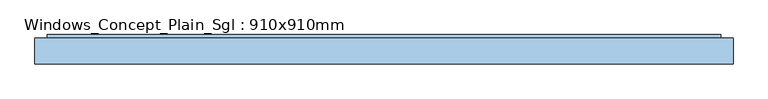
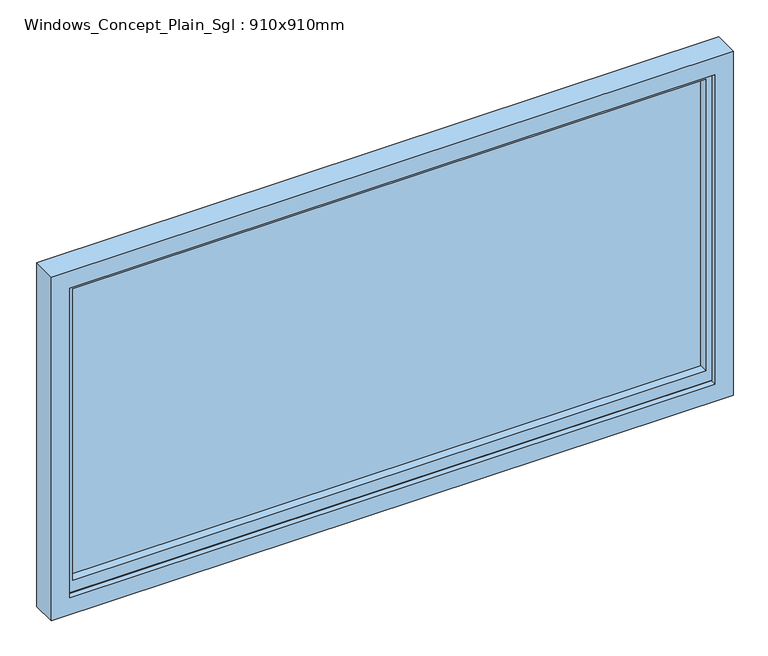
"""IFC4 building model written with IfcOpenShell, lengths in millimetres: window geometry, Windows_Concept_Plain_Sgl : 910x910mm."""

from ifc_helpers import new_model, si_unit, frame, origin, place, context, project, spatial, polyline, outline, extrude, faceted_brep, source, transform, mapped, element, save


def windows_concept_plain_sgl_910x910mm_838159d6(model_context):
    return source(origin(), model_context, "Body", "SolidModel", [
        extrude(outline(polyline([(1055.0, -2.5434322), (-1055.0, -2.5434322), (-1055.0, 21.4565678), (1055.0, 21.4565678), (1055.0, -2.5434322)])), frame((0.0, 0.0, 1003.0), z_axis=(0.0, 0.0, 1.0), x_axis=(1.0, 0.0, 0.0)), (0.0, 0.0, 1.0), 1037.0),
        faceted_brep([(-1085.0, -31.5434322, 2070.0), (-1085.0, 45.0035732, 2070.0), (-1085.0, 45.0035732, 973.0), (-1085.0, -31.5434322, 973.0), (-1045.0, -2.5434322, 2030.0), (-1045.0, -31.5434322, 2030.0), (-1045.0, -31.5434322, 1013.0), (-1045.0, -2.5434322, 1013.0), (-1055.0, 21.4565678, 2040.0), (-1055.0, -2.5434322, 2040.0), (-1055.0, -2.5434322, 1003.0), (-1055.0, 21.4565678, 1003.0), (-1045.0, 45.0035732, 2030.0), (-1045.0, 21.4565678, 2030.0), (-1045.0, 21.4565678, 1013.0), (-1045.0, 45.0035732, 1013.0), (1085.0, 45.0035732, 973.0), (1085.0, -31.5434322, 973.0), (1045.0, -31.5434322, 1013.0), (1045.0, -2.5434322, 1013.0), (1055.0, -2.5434322, 1003.0), (1055.0, 21.4565678, 1003.0), (1045.0, 21.4565678, 1013.0), (1045.0, 45.0035732, 1013.0), (1085.0, 45.0035732, 2070.0), (1085.0, -31.5434322, 2070.0), (1045.0, -31.5434322, 2030.0), (1045.0, -2.5434322, 2030.0), (1055.0, -2.5434322, 2040.0), (1055.0, 21.4565678, 2040.0), (1045.0, 21.4565678, 2030.0), (1045.0, 45.0035732, 2030.0)], [[[0, 1, 2, 3]], [[4, 5, 6, 7]], [[8, 9, 10, 11]], [[12, 13, 14, 15]], [[3, 2, 16, 17]], [[7, 6, 18, 19]], [[11, 10, 20, 21]], [[15, 14, 22, 23]], [[17, 16, 24, 25]], [[19, 18, 26, 27]], [[21, 20, 28, 29]], [[23, 22, 30, 31]], [[1, 24, 16, 2], [15, 23, 31, 12]], [[25, 24, 1, 0]], [[3, 17, 25, 0], [5, 26, 18, 6]], [[27, 26, 5, 4]], [[9, 28, 20, 10], [7, 19, 27, 4]], [[29, 28, 9, 8]], [[11, 21, 29, 8], [13, 30, 22, 14]], [[31, 30, 13, 12]]]),
        faceted_brep([(-1125.0, 33.4565678, 910.0), (-1125.0, -49.5434322, 910.0), (-1125.0, -49.5434322, 2110.0), (-1125.0, 33.4565678, 2110.0), (-1085.0, -31.5434322, 950.0), (-1085.0, 33.4565678, 950.0), (-1085.0, 33.4565678, 2070.0), (-1085.0, -31.5434322, 2070.0), (-1065.0, -49.5434322, 970.0), (-1065.0, -31.5434322, 970.0), (-1065.0, -31.5434322, 2050.0), (-1065.0, -49.5434322, 2050.0), (1125.0, -49.5434322, 2110.0), (1125.0, 33.4565678, 2110.0), (1085.0, 33.4565678, 2070.0), (1085.0, -31.5434322, 2070.0), (1065.0, -31.5434322, 2050.0), (1065.0, -49.5434322, 2050.0), (1125.0, -49.5434322, 910.0), (1125.0, 33.4565678, 910.0), (1085.0, 33.4565678, 950.0), (1085.0, -31.5434322, 950.0), (1065.0, -31.5434322, 970.0), (1065.0, -49.5434322, 970.0)], [[[0, 1, 2, 3]], [[4, 5, 6, 7]], [[8, 9, 10, 11]], [[3, 2, 12, 13]], [[7, 6, 14, 15]], [[11, 10, 16, 17]], [[13, 12, 18, 19]], [[15, 14, 20, 21]], [[17, 16, 22, 23]], [[1, 18, 12, 2], [11, 17, 23, 8]], [[19, 18, 1, 0]], [[3, 13, 19, 0], [5, 20, 14, 6]], [[21, 20, 5, 4]], [[7, 15, 21, 4], [9, 22, 16, 10]], [[23, 22, 9, 8]]]),
    ])


if __name__ == "__main__":
    model = new_model("IFC4")
    model_context = context("Model", 3, world=origin())
    ifc_project = project(units=[si_unit("LENGTHUNIT", "METRE", prefix="MILLI")], contexts=[model_context])
    site = spatial("IfcSite", under=ifc_project)
    building = spatial("IfcBuilding", under=site)
    placement = place(None, origin())
    windows_concept_plain_sgl_910x910mm_shape = windows_concept_plain_sgl_910x910mm_838159d6(model_context)
    element("IfcWindow", 1, ObjectType="Windows_Concept_Plain_Sgl : 910x910mm", at=placement, inside=building, context=model_context, shape_type="MappedRepresentation", body=[
        mapped(windows_concept_plain_sgl_910x910mm_shape, transform((0.0, 0.0, 0.0), x_axis=(1.0, 0.0, 0.0), y_axis=(0.0, 1.0, 0.0), z_axis=(0.0, 0.0, 1.0))),
    ])
    save(model, "model.ifc")
